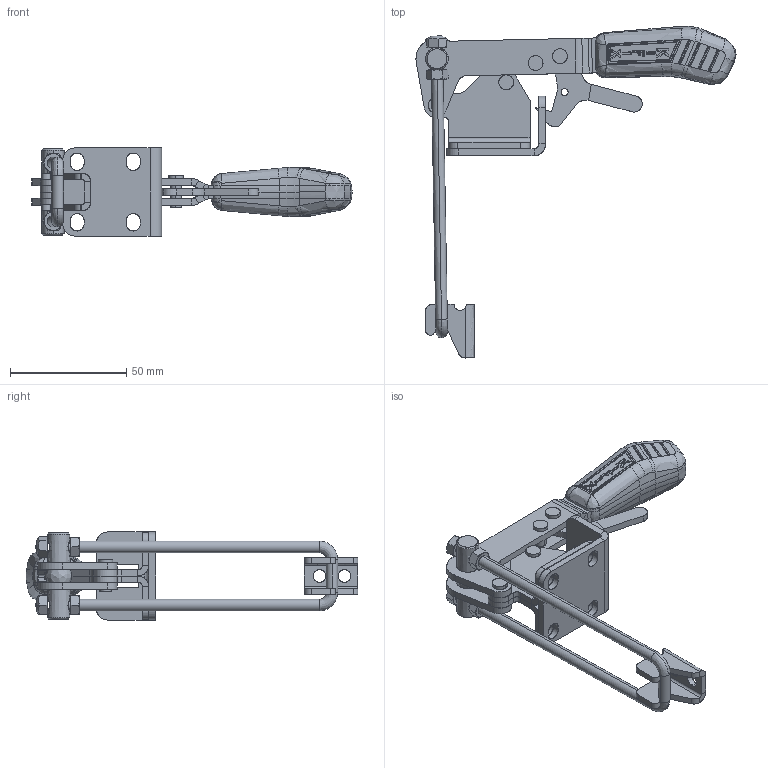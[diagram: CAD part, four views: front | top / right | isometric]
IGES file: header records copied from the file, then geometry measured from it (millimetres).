
Start section: SolidWorks IGES file using analytic representation for surfaces
Global section: file name: C:\Projetos\Grampos\KF-063\KF-063 DTR\KF-063 DTR.IGS; native system: SolidWorks 2013; preprocessor: SolidWorks 2013; author: Ricardo; date: 140822.085544; units: millimetre
Bounding box: 137.37 x 142.5 x 37.8 mm (x, y, z)
Surface area: 39445.2 mm2 (no closed solid volume)
Topology: 0 solids, 0 shells, 1058 faces, 11274 edges, 11213 vertices
Faces by surface type: bspline 596, revolution 462
